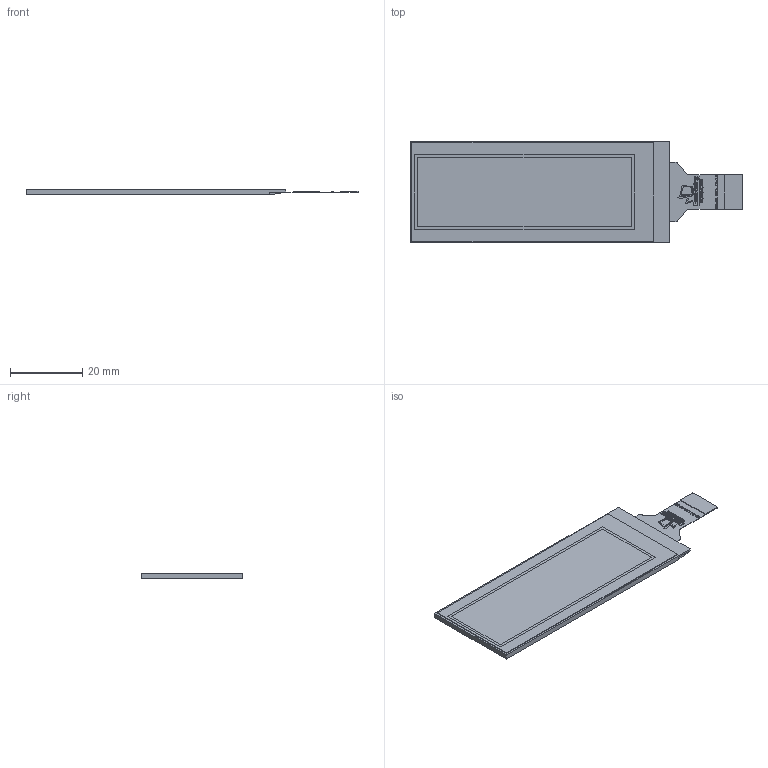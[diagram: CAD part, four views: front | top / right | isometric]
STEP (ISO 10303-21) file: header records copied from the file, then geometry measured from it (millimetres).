
FILE_DESCRIPTION (( 'STEP AP214' ), '1' );
FILE_NAME ('ER-OLED2.45-1.STEP', '2025-08-04T03:21:40', ( '微软用户' ), ( '微软中国' ), 'SwSTEP 2.0', 'SolidWorks 2023', '' );
FILE_SCHEMA (( 'AUTOMOTIVE_DESIGN' ));
Length unit declared in the file: millimetre
Products named in the file (1): ER-OLED2.45-1
Bounding box: 92 x 28.2 x 1.63 mm (x, y, z)
Volume: 3255.9 mm3; surface area: 5213.2 mm2
Topology: 48 solids, 48 shells, 691 faces, 1784 edges, 1192 vertices
Faces by surface type: plane 396, bspline 286, cylinder 9
Entity records: 38908 total; most frequent: CARTESIAN_POINT 16170, ORIENTED_EDGE 3568, DIRECTION 2042, EDGE_CURVE 1784, LINE 1194, VECTOR 1194, VERTEX_POINT 1192, EDGE_LOOP 724
